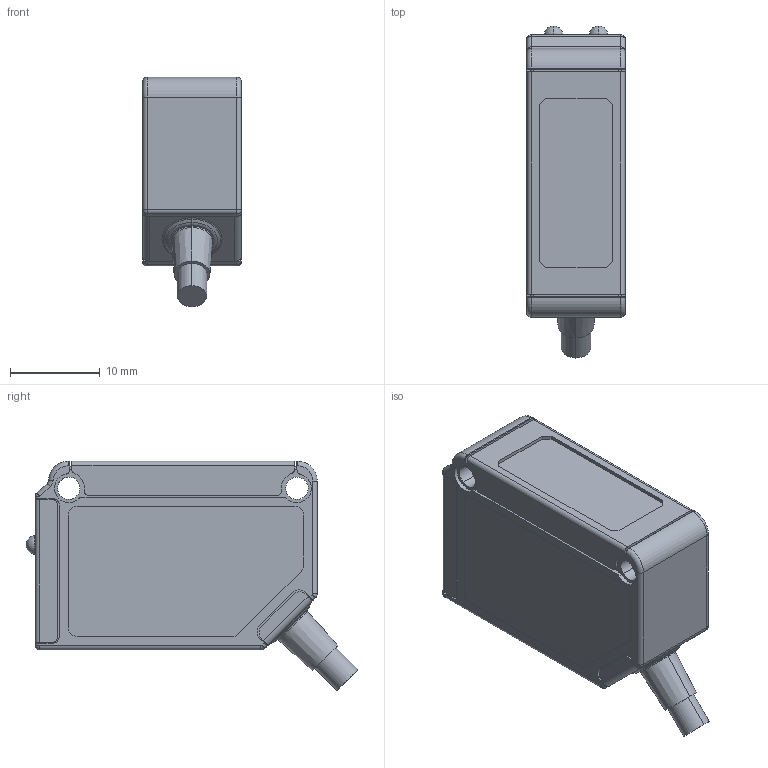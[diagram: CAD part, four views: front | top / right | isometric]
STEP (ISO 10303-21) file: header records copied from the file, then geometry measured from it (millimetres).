
FILE_DESCRIPTION(('Creo Elements/Direct Modeling STEP Export'),'2;1');
FILE_NAME('C:/Users/pe/Desktop//2260-PD30-Cable-blind-cap-for-kunde.stp','2016-04-04T11:06:03',('Palle Edslev pe@edslev.dk'),('EDSLEV A/S'),'Creo Elements/Direct Modeling STEP processor for AP214 (Solid Model)','Creo Elements/Direct Modeling 18.1H 24-Oct-2015 (C) Parametric Technology GmbH','');
FILE_SCHEMA(('AUTOMOTIVE_DESIGN { 1 0 10303 214 1 1 1 1 }'));
Length unit declared in the file: millimetre
Products named in the file (2): PD30-Cable-Stainless-steel-blind-cap-for-kunde
Assembly tree (1 placements, depth 2):
  PD30-Cable-Stainless-steel-blind-cap-for-kunde
    PD30-Cable-Stainless-steel-blind-cap-for-kunde
Bounding box: 11 x 36.93 x 25.53 mm (x, y, z)
Volume: 6867.5 mm3; surface area: 2762.8 mm2
Topology: 1 solids, 1 shells, 222 faces, 601 edges, 388 vertices
Faces by surface type: cylinder 105, plane 85, torus 20, cone 8, sphere 4
Entity records: 6744 total; most frequent: ORIENTED_EDGE 1194, DIRECTION 1179, CARTESIAN_POINT 1157, EDGE_CURVE 597, AXIS2_PLACEMENT_3D 436, VERTEX_POINT 388, VECTOR 307, LINE 307
